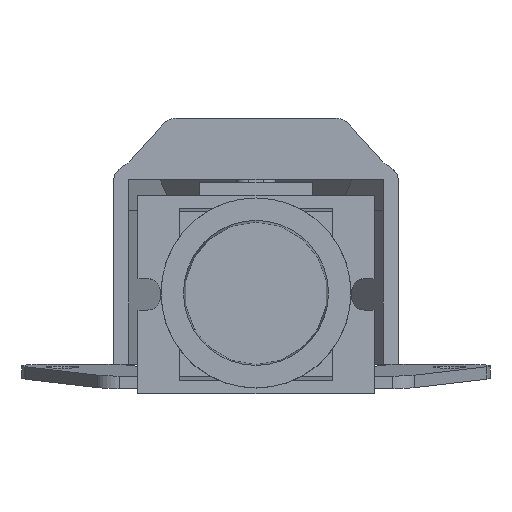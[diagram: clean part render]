
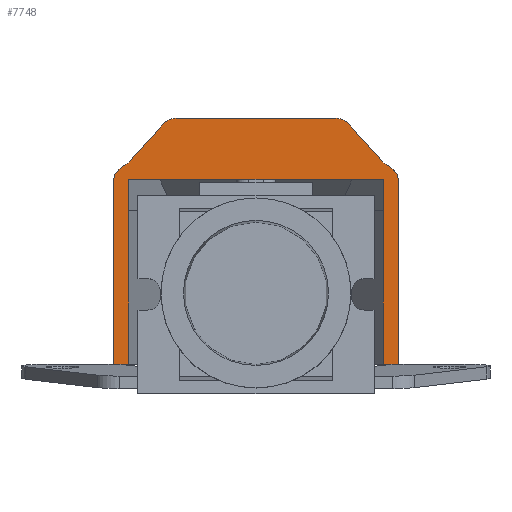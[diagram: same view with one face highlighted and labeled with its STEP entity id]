
A CAD part, top view. The second image highlights one B-rep face of the part: STEP entity #7748.
In plain terms, the highlighted planar face has unit normal (0, 0, 1) as drawn and (-1, 0, 0) by its records, which use the part's own axes.
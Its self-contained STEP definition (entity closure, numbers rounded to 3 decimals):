
#5922=CARTESIAN_POINT('',(-16.5,5.591,-5.769));
#5923=DIRECTION('',(1.,0.,0.));
#5924=DIRECTION('',(0.,-0.422,0.907));
#5925=AXIS2_PLACEMENT_3D('',#5922,#5923,#5924);
#5987=CARTESIAN_POINT('',(-16.5,3.188,-6.35));
#5988=DIRECTION('',(-1.,0.,0.));
#5989=DIRECTION('',(0.,0.744,-0.668));
#5990=AXIS2_PLACEMENT_3D('',#5987,#5988,#5989);
#5995=DIRECTION('',(0.,-0.668,-0.744));
#5996=VECTOR('',#5995,2.038);
#5997=CARTESIAN_POINT('',(-16.5,5.07,-5.301));
#5998=LINE('',#5997,#5996);
#6002=CARTESIAN_POINT('',(-16.5,5.,-4.5));
#6003=DIRECTION('',(-1.,0.,0.));
#6004=DIRECTION('',(0.,1.,0.));
#6005=AXIS2_PLACEMENT_3D('',#6002,#6003,#6004);
#6010=DIRECTION('',(0.,0.,-1.));
#6011=VECTOR('',#6010,7.3);
#6012=CARTESIAN_POINT('',(-16.5,5.7,2.8));
#6013=LINE('',#6012,#6011);
#6017=DIRECTION('',(0.,1.,0.));
#6018=VECTOR('',#6017,0.6);
#6019=CARTESIAN_POINT('',(-16.5,5.1,2.8));
#6020=LINE('',#6019,#6018);
#6024=DIRECTION('',(0.,0.,-1.));
#6025=VECTOR('',#6024,7.4);
#6026=CARTESIAN_POINT('',(-16.5,5.1,2.8));
#6027=LINE('',#6026,#6025);
#6031=DIRECTION('',(0.,-1.,0.));
#6032=VECTOR('',#6031,10.2);
#6033=CARTESIAN_POINT('',(-16.5,5.1,-4.6));
#6034=LINE('',#6033,#6032);
#6038=DIRECTION('',(0.,0.,-1.));
#6039=VECTOR('',#6038,7.4);
#6040=CARTESIAN_POINT('',(-16.5,-5.1,2.8));
#6041=LINE('',#6040,#6039);
#6045=DIRECTION('',(0.,1.,0.));
#6046=VECTOR('',#6045,0.6);
#6047=CARTESIAN_POINT('',(-16.5,-5.7,2.8));
#6048=LINE('',#6047,#6046);
#6052=DIRECTION('',(0.,0.,1.));
#6053=VECTOR('',#6052,7.3);
#6054=CARTESIAN_POINT('',(-16.5,-5.7,-4.5));
#6055=LINE('',#6054,#6053);
#6059=CARTESIAN_POINT('',(-16.5,-5.,-4.5));
#6060=DIRECTION('',(-1.,0.,0.));
#6061=DIRECTION('',(0.,-0.422,-0.907));
#6062=AXIS2_PLACEMENT_3D('',#6059,#6060,#6061);
#6067=DIRECTION('',(0.,-0.668,0.744));
#6068=VECTOR('',#6067,2.038);
#6069=CARTESIAN_POINT('',(-16.5,-3.709,-6.818));
#6070=LINE('',#6069,#6068);
#6074=CARTESIAN_POINT('',(-16.5,-3.188,-6.35));
#6075=DIRECTION('',(-1.,0.,0.));
#6076=DIRECTION('',(0.,0.,-1.));
#6077=AXIS2_PLACEMENT_3D('',#6074,#6075,#6076);
#6082=DIRECTION('',(0.,-1.,0.));
#6083=VECTOR('',#6082,6.376);
#6084=CARTESIAN_POINT('',(-16.5,3.188,-7.05));
#6085=LINE('',#6084,#6083);
#6859=CARTESIAN_POINT('',(-16.5,-5.591,-5.769));
#6860=DIRECTION('',(1.,0.,0.));
#6861=DIRECTION('',(0.,0.744,0.668));
#6862=AXIS2_PLACEMENT_3D('',#6859,#6860,#6861);
#6948=CARTESIAN_POINT('',(-16.5,5.1,-4.6));
#6949=CARTESIAN_POINT('',(-16.5,-5.1,-4.6));
#6950=VERTEX_POINT('',#6948);
#6951=VERTEX_POINT('',#6949);
#7101=CARTESIAN_POINT('',(-16.5,-5.1,2.8));
#7103=VERTEX_POINT('',#7101);
#7105=CARTESIAN_POINT('',(-16.5,5.1,2.8));
#7107=VERTEX_POINT('',#7105);
#7124=CARTESIAN_POINT('',(-16.5,-5.7,2.8));
#7125=VERTEX_POINT('',#7124);
#7126=CARTESIAN_POINT('',(-16.5,5.7,2.8));
#7127=VERTEX_POINT('',#7126);
#7128=CARTESIAN_POINT('',(-16.5,5.7,-4.5));
#7130=VERTEX_POINT('',#7128);
#7138=CARTESIAN_POINT('',(-16.5,-5.7,-4.5));
#7140=VERTEX_POINT('',#7138);
#7173=CARTESIAN_POINT('',(-16.5,3.709,-6.818));
#7174=VERTEX_POINT('',#7173);
#7175=CARTESIAN_POINT('',(-16.5,3.188,-7.05));
#7176=VERTEX_POINT('',#7175);
#7181=CARTESIAN_POINT('',(-16.5,-3.188,-7.05));
#7182=VERTEX_POINT('',#7181);
#7183=CARTESIAN_POINT('',(-16.5,-3.709,-6.818));
#7184=VERTEX_POINT('',#7183);
#7186=CARTESIAN_POINT('',(-16.5,-5.295,-5.135));
#7188=VERTEX_POINT('',#7186);
#7190=CARTESIAN_POINT('',(-16.5,-5.07,-5.301));
#7192=VERTEX_POINT('',#7190);
#7193=CARTESIAN_POINT('',(-16.5,5.295,-5.135));
#7195=VERTEX_POINT('',#7193);
#7197=CARTESIAN_POINT('',(-16.5,5.07,-5.301));
#7199=VERTEX_POINT('',#7197);
#7717=CARTESIAN_POINT('',(-16.5,0.,0.));
#7718=DIRECTION('',(-1.,0.,0.));
#7719=DIRECTION('',(0.,1.,0.));
#7720=AXIS2_PLACEMENT_3D('',#7717,#7718,#7719);
#7721=PLANE('',#7720);
#7722=ORIENTED_EDGE('',*,*,#7598,.F.);
#7723=ORIENTED_EDGE('',*,*,#7614,.F.);
#7724=ORIENTED_EDGE('',*,*,#7626,.F.);
#7725=ORIENTED_EDGE('',*,*,#7644,.F.);
#7726=ORIENTED_EDGE('',*,*,#7658,.F.);
#7727=ORIENTED_EDGE('',*,*,#7689,.F.);
#7729=ORIENTED_EDGE('',*,*,#7728,.T.);
#7731=ORIENTED_EDGE('',*,*,#7730,.T.);
#7732=ORIENTED_EDGE('',*,*,#7706,.F.);
#7733=ORIENTED_EDGE('',*,*,#7677,.F.);
#7735=ORIENTED_EDGE('',*,*,#7734,.F.);
#7737=ORIENTED_EDGE('',*,*,#7736,.F.);
#7739=ORIENTED_EDGE('',*,*,#7738,.F.);
#7741=ORIENTED_EDGE('',*,*,#7740,.F.);
#7743=ORIENTED_EDGE('',*,*,#7742,.F.);
#7745=ORIENTED_EDGE('',*,*,#7744,.F.);
#7746=EDGE_LOOP('',(#7722,#7723,#7724,#7725,#7726,#7727,#7729,#7731,#7732,#7733,
#7735,#7737,#7739,#7741,#7743,#7745));
#7747=FACE_OUTER_BOUND('',#7746,.F.);
#5926=CIRCLE('',#5925,0.7);
#5991=CIRCLE('',#5990,0.7);
#6006=CIRCLE('',#6005,0.7);
#6063=CIRCLE('',#6062,0.7);
#6078=CIRCLE('',#6077,0.7);
#6863=CIRCLE('',#6862,0.7);
#7598=EDGE_CURVE('',#7174,#7176,#5991,.T.);
#7614=EDGE_CURVE('',#7199,#7174,#5998,.T.);
#7626=EDGE_CURVE('',#7195,#7199,#5926,.T.);
#7644=EDGE_CURVE('',#7130,#7195,#6006,.T.);
#7658=EDGE_CURVE('',#7127,#7130,#6013,.T.);
#7677=EDGE_CURVE('',#7125,#7103,#6048,.T.);
#7689=EDGE_CURVE('',#7107,#7127,#6020,.T.);
#7706=EDGE_CURVE('',#7103,#6951,#6041,.T.);
#7728=EDGE_CURVE('',#7107,#6950,#6027,.T.);
#7730=EDGE_CURVE('',#6950,#6951,#6034,.T.);
#7734=EDGE_CURVE('',#7140,#7125,#6055,.T.);
#7736=EDGE_CURVE('',#7188,#7140,#6063,.T.);
#7738=EDGE_CURVE('',#7192,#7188,#6863,.T.);
#7740=EDGE_CURVE('',#7184,#7192,#6070,.T.);
#7742=EDGE_CURVE('',#7182,#7184,#6078,.T.);
#7744=EDGE_CURVE('',#7176,#7182,#6085,.T.);
#7748=ADVANCED_FACE('',(#7747),#7721,.T.);
